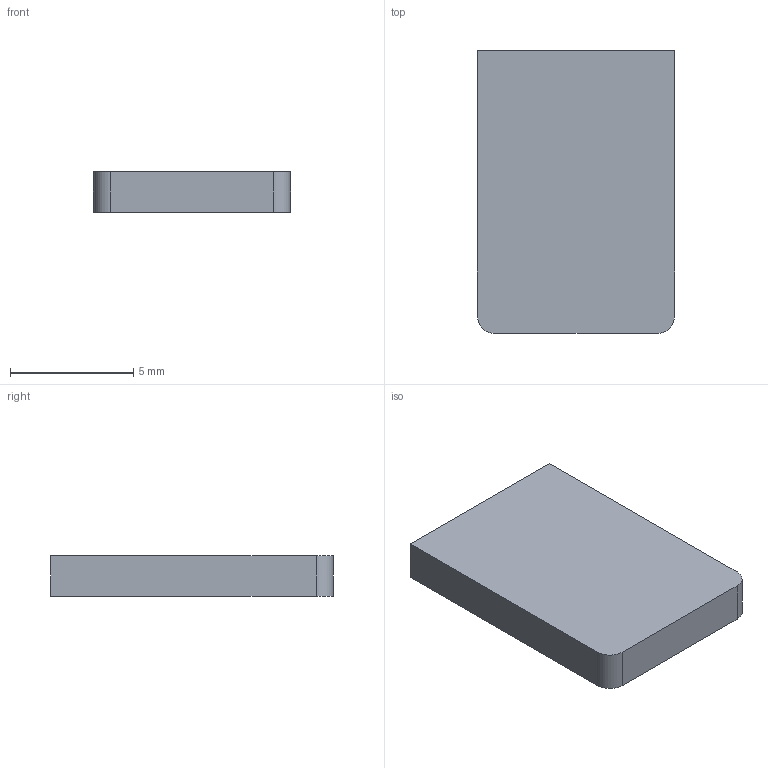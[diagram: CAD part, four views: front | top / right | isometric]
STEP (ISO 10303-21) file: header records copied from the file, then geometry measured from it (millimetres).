
FILE_DESCRIPTION(/* description */ (''),/* implementation_level */ '2;1');
FILE_NAME(/* name */ 'C27_R2_Battery_Front_Pad_-1_1.step',/* time_stamp */ '2026-09-10T17:48:50-07:00',/* author */ (''),/* organization */ (''),/* preprocessor_version */ 'ST-DEVELOPER v20.1',/* originating_system */ 'Autodesk Translation Framework v15.8.0.0',/* authorisation */ '');
FILE_SCHEMA (('AUTOMOTIVE_DESIGN { 1 0 10303 214 3 1 1 }'));
Length unit declared in the file: millimetre
Products named in the file (1): 2026-09-10-17-48-50-154
Bounding box: 8 x 11.48 x 1.66 mm (x, y, z)
Volume: 152.1 mm3; surface area: 246.9 mm2
Topology: 1 solids, 1 shells, 8 faces, 18 edges, 12 vertices
Faces by surface type: plane 6, cylinder 2
Entity records: 259 total; most frequent: DIRECTION 40, CARTESIAN_POINT 39, ORIENTED_EDGE 36, EDGE_CURVE 18, LINE 14, VECTOR 14, AXIS2_PLACEMENT_3D 13, VERTEX_POINT 12
